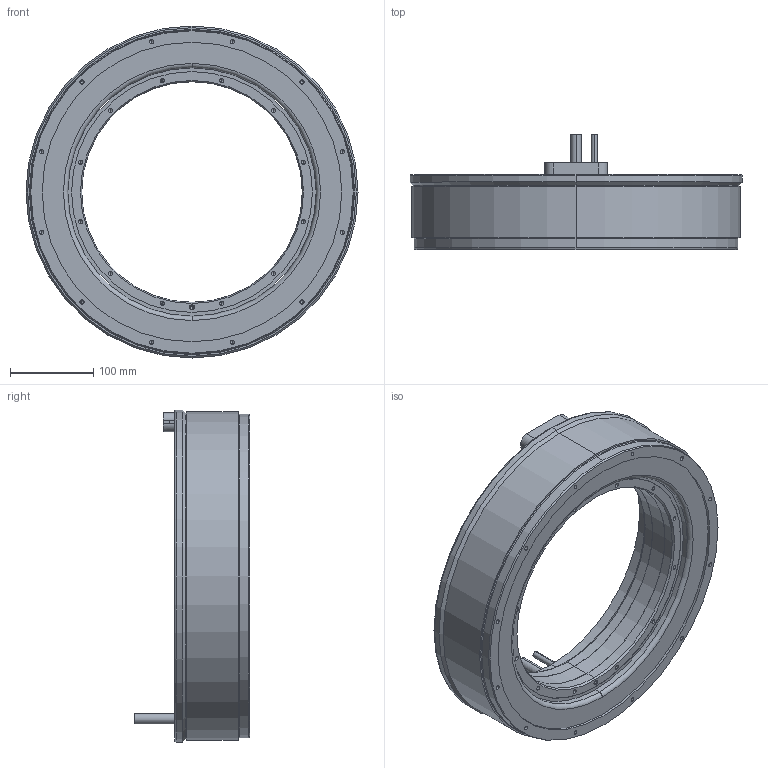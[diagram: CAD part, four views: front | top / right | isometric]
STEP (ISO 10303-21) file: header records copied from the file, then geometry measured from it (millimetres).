
FILE_DESCRIPTION (( 'STEP AP203' ), '1' );
FILE_NAME ('TM-2-A5-SA0(J0).STEP', '2023-06-06T01:50:38', ( '' ), ( '' ), 'SwSTEP 2.0', 'SolidWorks 2015', '' );
FILE_SCHEMA (( 'CONFIG_CONTROL_DESIGN' ));
Length unit declared in the file: millimetre
Products named in the file (3): TM-2-A5-SA0(J0); TM-2-A5-SA0(J0)_Stator; TM-2-A5(J0)_Rotor
Assembly tree (2 placements, depth 2):
  TM-2-A5-SA0(J0)
    TM-2-A5-SA0(J0)_Stator
    TM-2-A5(J0)_Rotor
Bounding box: 399 x 139 x 399 mm (x, y, z)
Volume: 5295114.8 mm3; surface area: 443767.3 mm2
Topology: 2 solids, 2 shells, 343 faces, 816 edges, 445 vertices
Faces by surface type: cylinder 158, cone 126, plane 51, torus 8
Entity records: 9431 total; most frequent: DIRECTION 1760, CARTESIAN_POINT 1503, ORIENTED_EDGE 1420, EDGE_CURVE 710, AXIS2_PLACEMENT_3D 702, VERTEX_POINT 445, EDGE_LOOP 421, VECTOR 356
